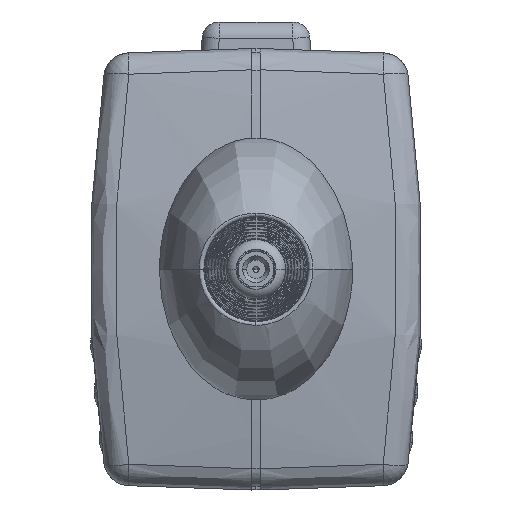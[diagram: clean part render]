
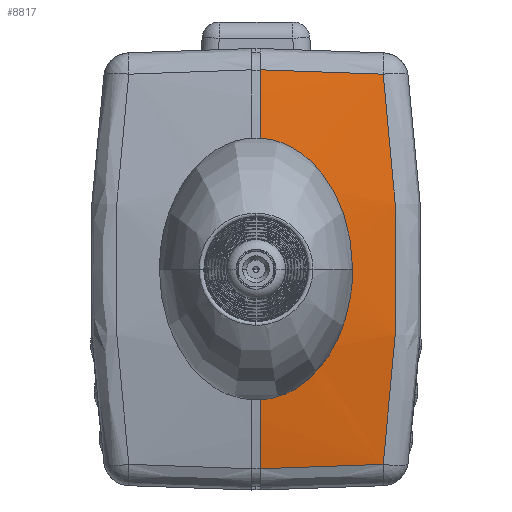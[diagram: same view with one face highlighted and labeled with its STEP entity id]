
A CAD part, front view. The second image highlights one B-rep face of the part: STEP entity #8817.
In plain terms, the highlighted conical face has half-angle 2 degrees and reference radius 101.368 mm.
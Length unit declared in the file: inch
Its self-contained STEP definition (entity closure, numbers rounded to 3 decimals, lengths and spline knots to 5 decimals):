
#1649=CARTESIAN_POINT('',(0.015,0.,-1.93918));
#1650=DIRECTION('',(1.,0.,0.));
#1651=DIRECTION('',(0.,0.181,0.984));
#1652=AXIS2_PLACEMENT_3D('',#1649,#1650,#1651);
#1657=CARTESIAN_POINT('',(0.46059,0.7061,
1.98113));
#1658=CARTESIAN_POINT('',(0.41104,0.70787,
1.98257));
#1659=CARTESIAN_POINT('',(0.31195,0.7114,
1.98545));
#1660=CARTESIAN_POINT('',(0.16342,0.71668,
1.98976));
#1661=CARTESIAN_POINT('',(0.06446,0.72021,
1.99262));
#1662=CARTESIAN_POINT('',(0.015,0.72197,1.99406));
#1667=CARTESIAN_POINT('',(0.46059,-0.7061,
1.98113));
#1668=CARTESIAN_POINT('',(0.47146,-0.62772,
1.99486));
#1669=CARTESIAN_POINT('',(0.48952,-0.47065,
2.01764));
#1670=CARTESIAN_POINT('',(0.50565,-0.23622,
2.03795));
#1671=CARTESIAN_POINT('',(0.5111,0.,
2.04479));
#1672=CARTESIAN_POINT('',(0.50565,0.23621,
2.03795));
#1673=CARTESIAN_POINT('',(0.48952,0.47067,
2.01764));
#1674=CARTESIAN_POINT('',(0.47146,0.62773,
1.99486));
#1675=CARTESIAN_POINT('',(0.46059,0.7061,
1.98113));
#1680=CARTESIAN_POINT('',(0.015,-0.72197,1.99406));
#1681=CARTESIAN_POINT('',(0.06446,-0.72021,
1.99262));
#1682=CARTESIAN_POINT('',(0.16342,-0.71668,
1.98976));
#1683=CARTESIAN_POINT('',(0.31195,-0.7114,
1.98545));
#1684=CARTESIAN_POINT('',(0.41104,-0.70787,
1.98257));
#1685=CARTESIAN_POINT('',(0.46059,-0.7061,
1.98113));
#1690=CARTESIAN_POINT('',(0.015,0.,-1.93918));
#1691=DIRECTION('',(1.,0.,0.));
#1692=DIRECTION('',(0.,-0.114,0.994));
#1693=AXIS2_PLACEMENT_3D('',#1690,#1691,#1692);
#1698=DIRECTION('',(0.999,0.004,-0.035));
#1699=VECTOR('',#1698,0.03002);
#1700=CARTESIAN_POINT('',(-0.015,-0.455,2.03485));
#1701=LINE('',#1700,#1699);
#1705=CARTESIAN_POINT('',(-0.015,0.,-1.93918));
#1706=DIRECTION('',(-1.,0.,0.));
#1707=DIRECTION('',(0.,-0.114,0.994));
#1708=AXIS2_PLACEMENT_3D('',#1705,#1706,#1707);
#1713=CARTESIAN_POINT('',(-0.015,-0.31079,
2.04872));
#1714=CARTESIAN_POINT('',(-0.01,-0.31052,
2.04857));
#1715=CARTESIAN_POINT('',(-0.005,-0.31026,
2.04842));
#1716=CARTESIAN_POINT('',(0.,-0.31,
2.04826));
#1721=CARTESIAN_POINT('',(0.,0.,-1.93918));
#1722=DIRECTION('',(1.,0.,0.));
#1723=DIRECTION('',(0.,-0.078,0.997));
#1724=AXIS2_PLACEMENT_3D('',#1721,#1722,#1723);
#1729=CARTESIAN_POINT('',(0.,-0.375,
2.04267));
#1730=CARTESIAN_POINT('',(0.04464,-0.37266,
2.04133));
#1731=CARTESIAN_POINT('',(0.08928,-0.37032,
2.03998));
#1732=CARTESIAN_POINT('',(0.13392,-0.36798,
2.03863));
#1737=CARTESIAN_POINT('',(0.13392,-0.36798,
2.03863));
#1738=CARTESIAN_POINT('',(0.14602,-0.35894,
2.03904));
#1739=CARTESIAN_POINT('',(0.16979,-0.33807,
2.04008));
#1740=CARTESIAN_POINT('',(0.20387,-0.29721,
2.04218));
#1741=CARTESIAN_POINT('',(0.22438,-0.26352,
2.04379));
#1742=CARTESIAN_POINT('',(0.23386,-0.2449,
2.04461));
#1747=CARTESIAN_POINT('',(0.22953,0.25318,
2.04424));
#1748=CARTESIAN_POINT('',(0.23769,0.23801,
2.04492));
#1749=CARTESIAN_POINT('',(0.25291,0.20516,
2.0463));
#1750=CARTESIAN_POINT('',(0.2712,0.15001,
2.04814));
#1751=CARTESIAN_POINT('',(0.28398,0.08955,
2.04953));
#1752=CARTESIAN_POINT('',(0.29018,0.02565,
2.05025));
#1753=CARTESIAN_POINT('',(0.28948,-0.0388,
2.05017));
#1754=CARTESIAN_POINT('',(0.28188,-0.10226,
2.0493));
#1755=CARTESIAN_POINT('',(0.26788,-0.16171,
2.0478));
#1756=CARTESIAN_POINT('',(0.25103,-0.2089,
2.04613));
#1757=CARTESIAN_POINT('',(0.23869,-0.23542,
2.04502));
#1758=CARTESIAN_POINT('',(0.23386,-0.2449,
2.04461));
#1763=CARTESIAN_POINT('',(0.22953,0.25318,
2.04424));
#1764=CARTESIAN_POINT('',(0.22211,0.26701,
2.04362));
#1765=CARTESIAN_POINT('',(0.20614,0.29308,
2.04238));
#1766=CARTESIAN_POINT('',(0.17908,0.32753,
2.04063));
#1767=CARTESIAN_POINT('',(0.14885,0.35732,
2.03911));
#1768=CARTESIAN_POINT('',(0.11559,0.3818,
2.03799));
#1769=CARTESIAN_POINT('',(0.07949,0.40028,
2.03743));
#1770=CARTESIAN_POINT('',(0.04053,0.41214,
2.03758));
#1771=CARTESIAN_POINT('',(0.01371,0.41491,
2.03823));
#1772=CARTESIAN_POINT('',(0.,0.4149,2.03871));
#1777=CARTESIAN_POINT('',(0.,0.,-1.93918));
#1778=DIRECTION('',(1.,0.,0.));
#1779=DIRECTION('',(0.,0.104,0.995));
#1780=AXIS2_PLACEMENT_3D('',#1777,#1778,#1779);
#1785=CARTESIAN_POINT('',(0.,0.31,
2.04826));
#1786=CARTESIAN_POINT('',(-0.005,0.31026,
2.04842));
#1787=CARTESIAN_POINT('',(-0.01,0.31052,
2.04857));
#1788=CARTESIAN_POINT('',(-0.015,0.31079,
2.04872));
#1793=CARTESIAN_POINT('',(-0.015,0.,-1.93918));
#1794=DIRECTION('',(-1.,0.,0.));
#1795=DIRECTION('',(0.,0.078,0.997));
#1796=AXIS2_PLACEMENT_3D('',#1793,#1794,#1795);
#1801=DIRECTION('',(0.999,-0.004,-0.035));
#1802=VECTOR('',#1801,0.03002);
#1803=CARTESIAN_POINT('',(-0.015,0.475,2.03251));
#1804=LINE('',#1803,#1802);
#7194=VERTEX_POINT('',#1667);
#7195=VERTEX_POINT('',#1675);
#7252=VERTEX_POINT('',#1747);
#7253=VERTEX_POINT('',#1758);
#7260=VERTEX_POINT('',#1772);
#7349=CARTESIAN_POINT('',(0.015,-0.45488,2.03381));
#7350=CARTESIAN_POINT('',(0.015,-0.72197,1.99406));
#7351=VERTEX_POINT('',#7349);
#7352=VERTEX_POINT('',#7350);
#7365=CARTESIAN_POINT('',(0.015,0.72197,1.99406));
#7366=CARTESIAN_POINT('',(0.015,0.47488,2.03147));
#7367=VERTEX_POINT('',#7365);
#7368=VERTEX_POINT('',#7366);
#7584=CARTESIAN_POINT('',(-0.015,-0.455,2.03485));
#7585=VERTEX_POINT('',#7584);
#7593=CARTESIAN_POINT('',(-0.015,0.475,2.03251));
#7594=VERTEX_POINT('',#7593);
#7629=CARTESIAN_POINT('',(-0.015,0.31079,2.04872));
#7630=VERTEX_POINT('',#7629);
#7631=CARTESIAN_POINT('',(-0.015,-0.31079,2.04872));
#7632=VERTEX_POINT('',#7631);
#7633=CARTESIAN_POINT('',(0.,0.31,2.04826));
#7634=VERTEX_POINT('',#7633);
#7635=VERTEX_POINT('',#1716);
#7640=VERTEX_POINT('',#1737);
#7641=VERTEX_POINT('',#1729);
#8779=CARTESIAN_POINT('',(0.24714,0.,-1.93918));
#8780=DIRECTION('',(-1.,0.,0.));
#8781=DIRECTION('',(0.,0.,1.));
#8782=AXIS2_PLACEMENT_3D('',#8779,#8780,#8781);
#8783=CONICAL_SURFACE('',#8782,3.99085,2.);
#8784=ORIENTED_EDGE('',*,*,#8745,.F.);
#8786=ORIENTED_EDGE('',*,*,#8785,.F.);
#8788=ORIENTED_EDGE('',*,*,#8787,.F.);
#8790=ORIENTED_EDGE('',*,*,#8789,.F.);
#8792=ORIENTED_EDGE('',*,*,#8791,.F.);
#8794=ORIENTED_EDGE('',*,*,#8793,.F.);
#8795=ORIENTED_EDGE('',*,*,#8565,.T.);
#8797=ORIENTED_EDGE('',*,*,#8796,.T.);
#8799=ORIENTED_EDGE('',*,*,#8798,.T.);
#8801=ORIENTED_EDGE('',*,*,#8800,.T.);
#8803=ORIENTED_EDGE('',*,*,#8802,.T.);
#8805=ORIENTED_EDGE('',*,*,#8804,.F.);
#8807=ORIENTED_EDGE('',*,*,#8806,.T.);
#8809=ORIENTED_EDGE('',*,*,#8808,.T.);
#8811=ORIENTED_EDGE('',*,*,#8810,.T.);
#8812=ORIENTED_EDGE('',*,*,#8431,.T.);
#8814=ORIENTED_EDGE('',*,*,#8813,.T.);
#8815=EDGE_LOOP('',(#8784,#8786,#8788,#8790,#8792,#8794,#8795,#8797,#8799,#8801,
#8803,#8805,#8807,#8809,#8811,#8812,#8814));
#8816=FACE_OUTER_BOUND('',#8815,.F.);
#8817=ADVANCED_FACE('',(#8816),#8783,.T.);
#1653=CIRCLE('',#1652,3.99895);
#1663=B_SPLINE_CURVE_WITH_KNOTS('',3,(#1657,#1658,#1659,#1660,#1661,#1662),
.UNSPECIFIED.,.F.,.F.,(4,1,1,4),(0.,0.33333,0.66667,1.),
.UNSPECIFIED.);
#1676=B_SPLINE_CURVE_WITH_KNOTS('',3,(#1667,#1668,#1669,#1670,#1671,#1672,#1673,
#1674,#1675),.UNSPECIFIED.,.F.,.F.,(4,1,1,1,1,1,4),(0.,0.16667,
0.33333,0.5,0.66667,0.83333,1.),
.UNSPECIFIED.);
#1686=B_SPLINE_CURVE_WITH_KNOTS('',3,(#1680,#1681,#1682,#1683,#1684,#1685),
.UNSPECIFIED.,.F.,.F.,(4,1,1,4),(0.,0.33333,0.66667,1.),
.UNSPECIFIED.);
#1694=CIRCLE('',#1693,3.99895);
#1709=CIRCLE('',#1708,4.);
#1717=B_SPLINE_CURVE_WITH_KNOTS('',3,(#1713,#1714,#1715,#1716),.UNSPECIFIED.,
.F.,.F.,(4,4),(0.,1.),.UNSPECIFIED.);
#1725=CIRCLE('',#1724,3.99948);
#1733=B_SPLINE_CURVE_WITH_KNOTS('',3,(#1729,#1730,#1731,#1732),.UNSPECIFIED.,
.F.,.F.,(4,4),(0.,1.),.UNSPECIFIED.);
#1743=B_SPLINE_CURVE_WITH_KNOTS('',3,(#1737,#1738,#1739,#1740,#1741,#1742),
.UNSPECIFIED.,.F.,.F.,(4,1,1,4),(0.,0.33333,0.66667,1.),
.UNSPECIFIED.);
#1759=B_SPLINE_CURVE_WITH_KNOTS('',3,(#1747,#1748,#1749,#1750,#1751,#1752,#1753,
#1754,#1755,#1756,#1757,#1758),.UNSPECIFIED.,.F.,.F.,(4,1,1,1,1,1,1,1,1,4),
(0.,0.11154,0.22865,0.34576,0.46287,
0.57998,0.69708,0.81419,0.9313,1.),
.UNSPECIFIED.);
#1773=B_SPLINE_CURVE_WITH_KNOTS('',3,(#1763,#1764,#1765,#1766,#1767,#1768,#1769,
#1770,#1771,#1772),.UNSPECIFIED.,.F.,.F.,(4,1,1,1,1,1,1,4),(0.,
0.14286,0.28571,0.42857,0.57143,
0.71429,0.85714,1.),.UNSPECIFIED.);
#1781=CIRCLE('',#1780,3.99948);
#1789=B_SPLINE_CURVE_WITH_KNOTS('',3,(#1785,#1786,#1787,#1788),.UNSPECIFIED.,
.F.,.F.,(4,4),(0.,1.),.UNSPECIFIED.);
#1797=CIRCLE('',#1796,4.);
#8431=EDGE_CURVE('',#7630,#7594,#1797,.T.);
#8565=EDGE_CURVE('',#7585,#7632,#1709,.T.);
#8745=EDGE_CURVE('',#7367,#7368,#1653,.T.);
#8785=EDGE_CURVE('',#7195,#7367,#1663,.T.);
#8787=EDGE_CURVE('',#7194,#7195,#1676,.T.);
#8789=EDGE_CURVE('',#7352,#7194,#1686,.T.);
#8791=EDGE_CURVE('',#7351,#7352,#1694,.T.);
#8793=EDGE_CURVE('',#7585,#7351,#1701,.T.);
#8796=EDGE_CURVE('',#7632,#7635,#1717,.T.);
#8798=EDGE_CURVE('',#7635,#7641,#1725,.T.);
#8800=EDGE_CURVE('',#7641,#7640,#1733,.T.);
#8802=EDGE_CURVE('',#7640,#7253,#1743,.T.);
#8804=EDGE_CURVE('',#7252,#7253,#1759,.T.);
#8806=EDGE_CURVE('',#7252,#7260,#1773,.T.);
#8808=EDGE_CURVE('',#7260,#7634,#1781,.T.);
#8810=EDGE_CURVE('',#7634,#7630,#1789,.T.);
#8813=EDGE_CURVE('',#7594,#7368,#1804,.T.);
